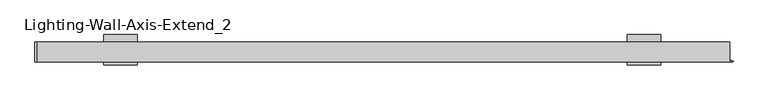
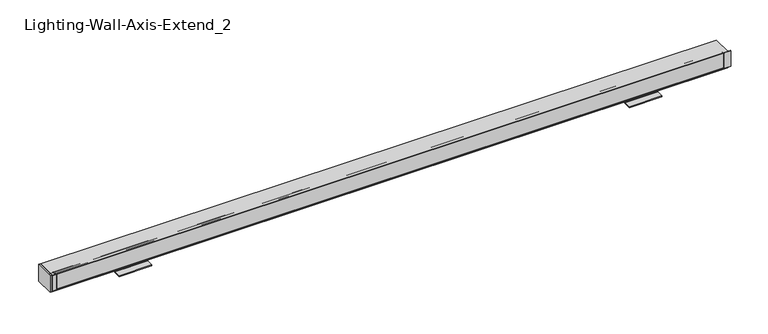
"""IFC4 building model written with IfcOpenShell, lengths in millimetres: light fixture geometry, Lighting-Wall-Axis-Extend_2 : EX2WD-900-80-35-SO-4."""

from ifc_helpers import new_model, si_unit, point, frame, frame_2d, origin, place, context, project, spatial, polyline, circle_curve, trimmed, segment, composite_curve, outline, extrude, source, transform, mapped, element, save


def lighting_wall_axis_extend_2_a71a7cbf(model_context):
    return source(origin(), model_context, "Body", "SweptSolid", [
        extrude(outline(polyline([(14.6177, 19.05), (71.4375, 19.05), (71.4375, 3.9878), (96.8375335, 3.9878), (96.8375335, 0.0), (-10.7823335, 0.0), (-10.7823335, 3.9878), (14.6177, 3.9878), (14.6177, 19.05)])), frame((864.20706, 0.0, 0.0), z_axis=(1.0, 0.0, 0.0), x_axis=(0.0, 1.0, 0.0)), (0.0, 0.0, 1.0), 118.69928),
        extrude(outline(polyline([(14.6177, 19.05), (71.4375, 19.05), (71.4375, 3.9878), (96.8375335, 3.9878), (96.8375335, 0.0), (-10.7823335, 0.0), (-10.7823335, 3.9878), (14.6177, 3.9878), (14.6177, 19.05)])), frame((-995.08564, 0.0, 0.0), z_axis=(1.0, 0.0, 0.0), x_axis=(0.0, 1.0, 0.0)), (0.0, 0.0, 1.0), 118.69928),
        extrude(outline(polyline([(1240.4598, 1.1017139), (1239.5352563, 0.0), (1217.1781437, 0.0), (1216.2536, 1.1017139), (1216.2536, 2.57175), (1217.04735, 2.57175), (1217.04735, 1.778), (1223.518, 1.778), (1223.518, 4.5842019), (1233.1954, 4.5842019), (1233.1954, 1.778), (1239.66605, 1.778), (1239.66605, 2.57175), (1240.4598, 2.57175), (1240.4598, 1.1017139)])), frame((0.0, 0.0, 21.082), z_axis=(0.0, 0.0, 1.0), x_axis=(1.0, 0.0, 0.0)), (0.0, 0.0, 1.0), 59.944),
        extrude(outline(polyline([(-1215.8726, 1.1017139), (-1216.7971437, 0.0), (-1234.186, 0.0), (-1234.186, 4.5842019), (-1223.518, 4.5842019), (-1223.518, 1.778), (-1216.66635, 1.778), (-1216.66635, 2.57175), (-1215.8726, 2.57175), (-1215.8726, 1.1017139)])), frame((0.0, 0.0, 21.082), z_axis=(0.0, 0.0, 1.0), x_axis=(1.0, 0.0, 0.0)), (0.0, 0.0, 1.0), 59.944),
        extrude(outline(polyline([(-1234.186, 71.4375), (-1234.186, 0.0), (-1240.536, 0.0), (-1240.536, 71.4375), (-1234.186, 71.4375)])), frame((0.0, 0.0, 19.05), z_axis=(0.0, 0.0, 1.0), x_axis=(1.0, 0.0, 0.0)), (0.0, 0.0, 1.0), 64.008),
        extrude(outline(composite_curve([segment(polyline([(4.8895009, 75.2267262), (4.8895009, 26.8812738), (11.3521263, 26.5425819)]), True, "CONTINUOUS"), segment(trimmed(circle_curve(frame_2d((14.351, 23.7998)), 4.064), [point((11.3521263, 26.5425819))], [point((17.9580097, 25.6721186))], False, "CARTESIAN"), True, "CONTINUOUS"), segment(trimmed(circle_curve(frame_2d((17.1691543, 28.904656)), 3.3274001), [point((17.9580097, 25.6721186))], [point((19.4557425, 26.4874044))], True, "CARTESIAN"), True, "CONTINUOUS"), segment(trimmed(circle_curve(frame_2d((12.4214292, 33.9236823)), 10.2362001), [point((19.4557425, 26.4874044))], [point((20.6551445, 27.8420934))], True, "CARTESIAN"), True, "CONTINUOUS"), segment(trimmed(circle_curve(frame_2d((21.3191538, 27.3516427)), 0.8255), [point((20.6551445, 27.8420934))], [point((21.9831631, 26.861192))], False, "CARTESIAN"), True, "CONTINUOUS"), segment(trimmed(circle_curve(frame_2d((12.4214283, 33.9236831)), 11.8872013), [point((21.9831631, 26.861192))], [point((20.5903092, 25.2880048))], False, "CARTESIAN"), True, "CONTINUOUS"), segment(trimmed(circle_curve(frame_2d((17.1691543, 28.904656)), 4.9784001), [point((20.5903092, 25.2880048))], [point((16.75974, 23.9431193))], False, "CARTESIAN"), True, "CONTINUOUS"), segment(trimmed(circle_curve(frame_2d((14.351, 23.7998)), 2.413), [point((16.75974, 23.9431193))], [point((12.7205342, 25.5786059))], True, "CARTESIAN"), True, "CONTINUOUS"), segment(trimmed(circle_curve(frame_2d((11.0042544, 27.4510331)), 2.54), [point((12.7205342, 25.5786059))], [point((10.8713211, 24.9145141))], False, "CARTESIAN"), True, "CONTINUOUS"), segment(polyline([(10.8713211, 24.9145141), (4.8895009, 25.228008), (4.8895009, 22.225), (2.9845, 22.225), (2.9845, 79.883), (4.8895009, 79.883), (4.8895009, 76.879992), (10.8713211, 77.1934859)]), True, "CONTINUOUS"), segment(trimmed(circle_curve(frame_2d((11.0042544, 74.6569669)), 2.54), [point((10.8713211, 77.1934859))], [point((12.7205342, 76.5293941))], False, "CARTESIAN"), True, "CONTINUOUS"), segment(trimmed(circle_curve(frame_2d((14.351, 78.3082)), 2.413), [point((12.7205342, 76.5293941))], [point((16.75974, 78.1648807))], True, "CARTESIAN"), True, "CONTINUOUS"), segment(trimmed(circle_curve(frame_2d((17.1691543, 73.203344)), 4.9784001), [point((16.75974, 78.1648807))], [point((20.5903092, 76.8199952))], False, "CARTESIAN"), True, "CONTINUOUS"), segment(trimmed(circle_curve(frame_2d((12.4214283, 68.1843169)), 11.8872013), [point((20.5903092, 76.8199952))], [point((21.9831631, 75.246808))], False, "CARTESIAN"), True, "CONTINUOUS"), segment(trimmed(circle_curve(frame_2d((21.3191538, 74.7563573)), 0.8255), [point((21.9831631, 75.246808))], [point((20.6551445, 74.2659066))], False, "CARTESIAN"), True, "CONTINUOUS"), segment(trimmed(circle_curve(frame_2d((12.4214292, 68.1843177)), 10.2362001), [point((20.6551445, 74.2659066))], [point((19.4557425, 75.6205956))], True, "CARTESIAN"), True, "CONTINUOUS"), segment(trimmed(circle_curve(frame_2d((17.1691543, 73.203344)), 3.3274001), [point((19.4557425, 75.6205956))], [point((17.9580097, 76.4358814))], True, "CARTESIAN"), True, "CONTINUOUS"), segment(trimmed(circle_curve(frame_2d((14.351, 78.3082)), 4.064), [point((17.9580097, 76.4358814))], [point((11.3521263, 75.5654181))], False, "CARTESIAN"), True, "CONTINUOUS"), segment(polyline([(11.3521263, 75.5654181), (4.8895009, 75.2267262)]), True, "CONTINUOUS")], self_intersect=False)), frame((-1219.2, 0.0, 0.0), z_axis=(1.0, 0.0, 0.0), x_axis=(0.0, 1.0, 0.0)), (0.0, 0.0, 1.0), 2438.4),
        extrude(outline(composite_curve([segment(polyline([(14.9098, 81.026), (14.9098, 79.1865797)]), True, "CONTINUOUS"), segment(trimmed(circle_curve(frame_2d((14.9098, 77.6802297)), 1.5063501), [point((14.9098, 79.1865797))], [point((16.2143374, 76.9270546))], False, "CARTESIAN"), True, "CONTINUOUS"), segment(trimmed(circle_curve(frame_2d((14.1511921, 78.1182121)), 2.382315), [point((16.2143374, 76.9270546))], [point((13.9591318, 75.7436516))], False, "CARTESIAN"), True, "CONTINUOUS"), segment(polyline([(13.9591318, 75.7436516), (11.1252, 79.121), (12.8778, 79.121), (12.8778, 81.026), (6.35, 81.026), (6.35, 79.121), (7.874, 79.121), (7.7874748, 77.47), (5.08, 77.47), (5.08, 81.026), (0.0, 81.026), (0.0, 83.058), (71.4375, 83.058), (71.4375, 19.05), (0.0, 19.05), (0.0, 21.082), (5.08, 21.082), (5.08, 24.638), (7.7874748, 24.638), (7.874, 22.987), (6.35, 22.987), (6.35, 21.082), (12.8778, 21.082), (12.8778, 22.987), (11.1252, 22.987), (13.9591318, 26.3643484)]), True, "CONTINUOUS"), segment(trimmed(circle_curve(frame_2d((14.1511921, 23.9897879)), 2.382315), [point((13.9591318, 26.3643484))], [point((16.2143374, 25.1809454))], False, "CARTESIAN"), True, "CONTINUOUS"), segment(trimmed(circle_curve(frame_2d((14.9098, 24.4277703)), 1.5063501), [point((16.2143374, 25.1809454))], [point((14.9098, 22.9214203))], False, "CARTESIAN"), True, "CONTINUOUS"), segment(polyline([(14.9098, 22.9214203), (14.9098, 21.082), (69.4055, 21.082), (69.4055, 81.026), (14.9098, 81.026)]), True, "CONTINUOUS")], self_intersect=False)), frame((-1234.186, 0.0, 0.0), z_axis=(1.0, 0.0, 0.0), x_axis=(0.0, 1.0, 0.0)), (0.0, 0.0, 1.0), 2462.5427),
    ])


if __name__ == "__main__":
    model = new_model("IFC4")
    model_context = context("Model", 3, world=origin())
    ifc_project = project(units=[si_unit("LENGTHUNIT", "METRE", prefix="MILLI")], contexts=[model_context])
    site = spatial("IfcSite", under=ifc_project)
    building = spatial("IfcBuilding", under=site)
    placement = place(None, origin())
    lighting_wall_axis_extend_2_shape = lighting_wall_axis_extend_2_a71a7cbf(model_context)
    element("IfcLightFixture", 1, ObjectType="Lighting-Wall-Axis-Extend_2 : EX2WD-900-80-35-SO-4", at=placement, inside=building, context=model_context, shape_type="MappedRepresentation", body=[
        mapped(lighting_wall_axis_extend_2_shape, transform((0.0, 0.0, 0.0), x_axis=(1.0, 0.0, 0.0), y_axis=(0.0, 1.0, 0.0), z_axis=(0.0, 0.0, 1.0))),
    ])
    save(model, "model.ifc")
